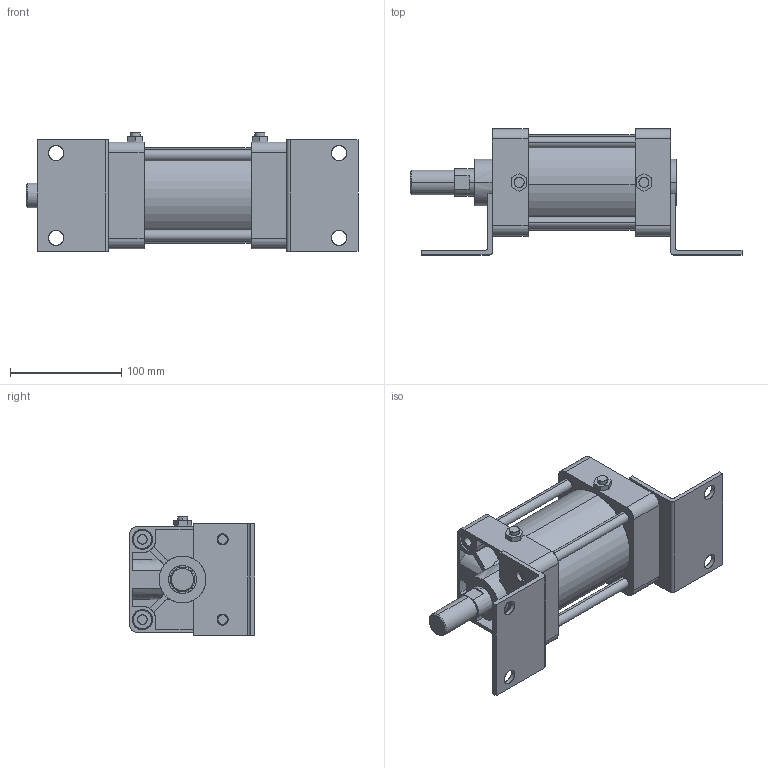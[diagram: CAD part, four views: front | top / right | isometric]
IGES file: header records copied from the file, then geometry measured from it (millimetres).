
Start section: SolidWorks IGES file using analytic representation for surfaces
Global section: file name: C:\Users\Toshiba\Desktop\KG2-80#-50-L.IGS; native system: SolidWorks 2014; preprocessor: SolidWorks 2014; author: Toshiba; date: 160407.153344; units: millimetre
Bounding box: 298 x 113 x 106.3 mm (x, y, z)
Surface area: 218102.1 mm2 (no closed solid volume)
Topology: 0 solids, 0 shells, 349 faces, 5570 edges, 5566 vertices
Faces by surface type: bspline 183, revolution 166
